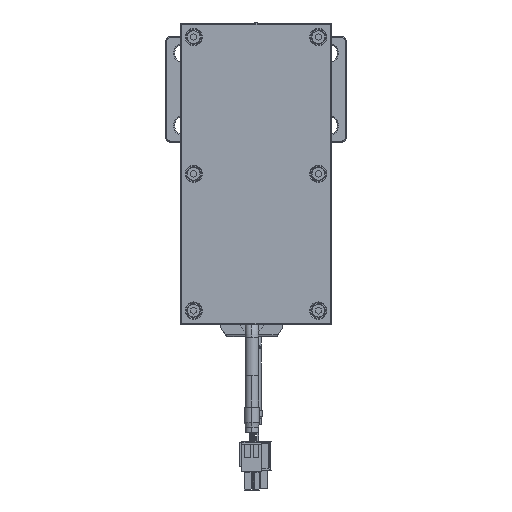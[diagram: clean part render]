
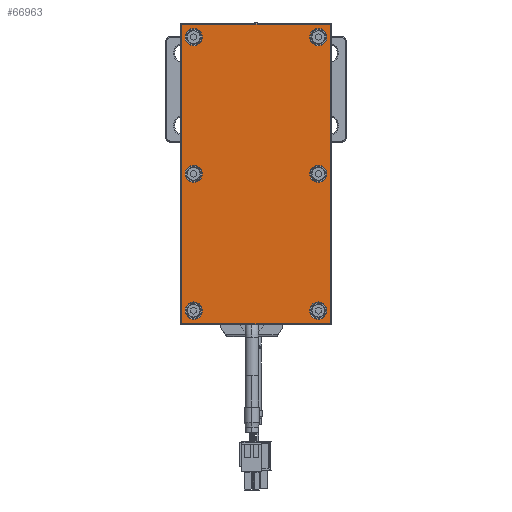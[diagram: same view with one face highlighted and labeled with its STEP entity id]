
A CAD part, front view. The second image highlights one B-rep face of the part: STEP entity #66963.
In plain terms, the highlighted planar face has unit normal (0, -1, 0).
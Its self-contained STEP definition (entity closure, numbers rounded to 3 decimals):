
#65580=CARTESIAN_POINT('',(74.,-6.,-36.5));
#65581=DIRECTION('',(0.,-1.,0.));
#65582=DIRECTION('',(0.,0.,-1.));
#65583=AXIS2_PLACEMENT_3D('',#65580,#65581,#65582);
#65585=DIRECTION('',(1.,0.,0.));
#65586=VECTOR('',#65585,148.);
#65587=CARTESIAN_POINT('',(-74.,-6.,
-37.));
#65588=LINE('',#65587,#65586);
#65589=CARTESIAN_POINT('',(-74.,-6.,-36.5));
#65590=DIRECTION('',(0.,-1.,0.));
#65591=DIRECTION('',(-1.,0.,0.));
#65592=AXIS2_PLACEMENT_3D('',#65589,#65590,#65591);
#65594=DIRECTION('',(0.,0.,-1.));
#65595=VECTOR('',#65594,73.);
#65596=CARTESIAN_POINT('',(-74.5,-6.,
36.5));
#65597=LINE('',#65596,#65595);
#65598=CARTESIAN_POINT('',(-74.,-6.,36.5));
#65599=DIRECTION('',(0.,-1.,0.));
#65600=DIRECTION('',(0.,0.,1.));
#65601=AXIS2_PLACEMENT_3D('',#65598,#65599,#65600);
#65603=DIRECTION('',(-1.,0.,0.));
#65604=VECTOR('',#65603,148.);
#65605=CARTESIAN_POINT('',(74.,-6.,
37.));
#65606=LINE('',#65605,#65604);
#65607=CARTESIAN_POINT('',(74.,-6.,36.5));
#65608=DIRECTION('',(0.,-1.,0.));
#65609=DIRECTION('',(1.,0.,0.));
#65610=AXIS2_PLACEMENT_3D('',#65607,#65608,#65609);
#65612=DIRECTION('',(0.,0.,1.));
#65613=VECTOR('',#65612,73.);
#65614=CARTESIAN_POINT('',(74.5,-6.,
-36.5));
#65615=LINE('',#65614,#65613);
#65616=CARTESIAN_POINT('',(-68.,-6.,-31.));
#65617=DIRECTION('',(0.,1.,0.));
#65618=DIRECTION('',(1.,0.,0.));
#65619=AXIS2_PLACEMENT_3D('',#65616,#65617,#65618);
#65621=CARTESIAN_POINT('',(-68.,-6.,-31.));
#65622=DIRECTION('',(0.,1.,0.));
#65623=DIRECTION('',(-1.,0.,0.));
#65624=AXIS2_PLACEMENT_3D('',#65621,#65622,#65623);
#65626=CARTESIAN_POINT('',(0.,-6.,-31.));
#65627=DIRECTION('',(0.,1.,0.));
#65628=DIRECTION('',(1.,0.,0.));
#65629=AXIS2_PLACEMENT_3D('',#65626,#65627,#65628);
#65631=CARTESIAN_POINT('',(0.,-6.,-31.));
#65632=DIRECTION('',(0.,1.,0.));
#65633=DIRECTION('',(-1.,0.,0.));
#65634=AXIS2_PLACEMENT_3D('',#65631,#65632,#65633);
#65636=CARTESIAN_POINT('',(68.,-6.,-31.));
#65637=DIRECTION('',(0.,1.,0.));
#65638=DIRECTION('',(1.,0.,0.));
#65639=AXIS2_PLACEMENT_3D('',#65636,#65637,#65638);
#65641=CARTESIAN_POINT('',(68.,-6.,-31.));
#65642=DIRECTION('',(0.,1.,0.));
#65643=DIRECTION('',(-1.,0.,0.));
#65644=AXIS2_PLACEMENT_3D('',#65641,#65642,#65643);
#65646=CARTESIAN_POINT('',(68.,-6.,31.));
#65647=DIRECTION('',(0.,1.,0.));
#65648=DIRECTION('',(1.,0.,0.));
#65649=AXIS2_PLACEMENT_3D('',#65646,#65647,#65648);
#65651=CARTESIAN_POINT('',(68.,-6.,31.));
#65652=DIRECTION('',(0.,1.,0.));
#65653=DIRECTION('',(-1.,0.,0.));
#65654=AXIS2_PLACEMENT_3D('',#65651,#65652,#65653);
#65656=CARTESIAN_POINT('',(0.,-6.,31.));
#65657=DIRECTION('',(0.,1.,0.));
#65658=DIRECTION('',(1.,0.,0.));
#65659=AXIS2_PLACEMENT_3D('',#65656,#65657,#65658);
#65661=CARTESIAN_POINT('',(0.,-6.,31.));
#65662=DIRECTION('',(0.,1.,0.));
#65663=DIRECTION('',(-1.,0.,0.));
#65664=AXIS2_PLACEMENT_3D('',#65661,#65662,#65663);
#65666=CARTESIAN_POINT('',(-68.,-6.,31.));
#65667=DIRECTION('',(0.,1.,0.));
#65668=DIRECTION('',(1.,0.,0.));
#65669=AXIS2_PLACEMENT_3D('',#65666,#65667,#65668);
#65671=CARTESIAN_POINT('',(-68.,-6.,31.));
#65672=DIRECTION('',(0.,1.,0.));
#65673=DIRECTION('',(-1.,0.,0.));
#65674=AXIS2_PLACEMENT_3D('',#65671,#65672,#65673);
#66704=CARTESIAN_POINT('',(74.,-6.,-37.));
#66705=CARTESIAN_POINT('',(74.5,-6.,-36.5));
#66706=VERTEX_POINT('',#66704);
#66707=VERTEX_POINT('',#66705);
#66712=CARTESIAN_POINT('',(74.5,-6.,
36.5));
#66713=VERTEX_POINT('',#66712);
#66716=CARTESIAN_POINT('',(74.,-6.,37.));
#66717=VERTEX_POINT('',#66716);
#66720=CARTESIAN_POINT('',(-74.,-6.,
37.));
#66721=VERTEX_POINT('',#66720);
#66724=CARTESIAN_POINT('',(-74.5,-6.,36.5));
#66725=VERTEX_POINT('',#66724);
#66728=CARTESIAN_POINT('',(-74.5,-6.,
-36.5));
#66729=VERTEX_POINT('',#66728);
#66732=CARTESIAN_POINT('',(-74.,-6.,-37.));
#66733=VERTEX_POINT('',#66732);
#66760=CARTESIAN_POINT('',(-63.7,-6.,-31.));
#66761=CARTESIAN_POINT('',(-72.3,-6.,-31.));
#66762=VERTEX_POINT('',#66760);
#66763=VERTEX_POINT('',#66761);
#66776=CARTESIAN_POINT('',(4.3,-6.,-31.));
#66777=CARTESIAN_POINT('',(-4.3,-6.,-31.));
#66778=VERTEX_POINT('',#66776);
#66779=VERTEX_POINT('',#66777);
#66800=CARTESIAN_POINT('',(72.3,-6.,-31.));
#66801=CARTESIAN_POINT('',(63.7,-6.,-31.));
#66802=VERTEX_POINT('',#66800);
#66803=VERTEX_POINT('',#66801);
#66816=CARTESIAN_POINT('',(72.3,-6.,31.));
#66817=CARTESIAN_POINT('',(63.7,-6.,31.));
#66818=VERTEX_POINT('',#66816);
#66819=VERTEX_POINT('',#66817);
#66824=CARTESIAN_POINT('',(4.3,-6.,31.));
#66825=CARTESIAN_POINT('',(-4.3,-6.,31.));
#66826=VERTEX_POINT('',#66824);
#66827=VERTEX_POINT('',#66825);
#66848=CARTESIAN_POINT('',(-63.7,-6.,31.));
#66849=CARTESIAN_POINT('',(-72.3,-6.,31.));
#66850=VERTEX_POINT('',#66848);
#66851=VERTEX_POINT('',#66849);
#66904=CARTESIAN_POINT('',(0.,-6.,0.));
#66905=DIRECTION('',(0.,1.,0.));
#66906=DIRECTION('',(1.,0.,0.));
#66907=AXIS2_PLACEMENT_3D('',#66904,#66905,#66906);
#66908=PLANE('',#66907);
#66910=ORIENTED_EDGE('',*,*,#66909,.F.);
#66912=ORIENTED_EDGE('',*,*,#66911,.F.);
#66914=ORIENTED_EDGE('',*,*,#66913,.F.);
#66916=ORIENTED_EDGE('',*,*,#66915,.F.);
#66918=ORIENTED_EDGE('',*,*,#66917,.F.);
#66920=ORIENTED_EDGE('',*,*,#66919,.F.);
#66922=ORIENTED_EDGE('',*,*,#66921,.F.);
#66924=ORIENTED_EDGE('',*,*,#66923,.F.);
#66925=EDGE_LOOP('',(#66910,#66912,#66914,#66916,#66918,#66920,#66922,#66924));
#66926=FACE_OUTER_BOUND('',#66925,.F.);
#66928=ORIENTED_EDGE('',*,*,#66927,.F.);
#66930=ORIENTED_EDGE('',*,*,#66929,.F.);
#66931=EDGE_LOOP('',(#66928,#66930));
#66932=FACE_BOUND('',#66931,.F.);
#66934=ORIENTED_EDGE('',*,*,#66933,.F.);
#66936=ORIENTED_EDGE('',*,*,#66935,.F.);
#66937=EDGE_LOOP('',(#66934,#66936));
#66938=FACE_BOUND('',#66937,.F.);
#66940=ORIENTED_EDGE('',*,*,#66939,.F.);
#66942=ORIENTED_EDGE('',*,*,#66941,.F.);
#66943=EDGE_LOOP('',(#66940,#66942));
#66944=FACE_BOUND('',#66943,.F.);
#66946=ORIENTED_EDGE('',*,*,#66945,.F.);
#66948=ORIENTED_EDGE('',*,*,#66947,.F.);
#66949=EDGE_LOOP('',(#66946,#66948));
#66950=FACE_BOUND('',#66949,.F.);
#66952=ORIENTED_EDGE('',*,*,#66951,.F.);
#66954=ORIENTED_EDGE('',*,*,#66953,.F.);
#66955=EDGE_LOOP('',(#66952,#66954));
#66956=FACE_BOUND('',#66955,.F.);
#66958=ORIENTED_EDGE('',*,*,#66957,.F.);
#66960=ORIENTED_EDGE('',*,*,#66959,.F.);
#66961=EDGE_LOOP('',(#66958,#66960));
#66962=FACE_BOUND('',#66961,.F.);
#66963=ADVANCED_FACE('',(#66926,#66932,#66938,#66944,#66950,#66956,#66962),
#66908,.F.);
#65584=CIRCLE('',#65583,0.5);
#65593=CIRCLE('',#65592,0.5);
#65602=CIRCLE('',#65601,0.5);
#65611=CIRCLE('',#65610,0.5);
#65620=CIRCLE('',#65619,4.3);
#65625=CIRCLE('',#65624,4.3);
#65630=CIRCLE('',#65629,4.3);
#65635=CIRCLE('',#65634,4.3);
#65640=CIRCLE('',#65639,4.3);
#65645=CIRCLE('',#65644,4.3);
#65650=CIRCLE('',#65649,4.3);
#65655=CIRCLE('',#65654,4.3);
#65660=CIRCLE('',#65659,4.3);
#65665=CIRCLE('',#65664,4.3);
#65670=CIRCLE('',#65669,4.3);
#65675=CIRCLE('',#65674,4.3);
#66909=EDGE_CURVE('',#66706,#66707,#65584,.T.);
#66911=EDGE_CURVE('',#66733,#66706,#65588,.T.);
#66913=EDGE_CURVE('',#66729,#66733,#65593,.T.);
#66915=EDGE_CURVE('',#66725,#66729,#65597,.T.);
#66917=EDGE_CURVE('',#66721,#66725,#65602,.T.);
#66919=EDGE_CURVE('',#66717,#66721,#65606,.T.);
#66921=EDGE_CURVE('',#66713,#66717,#65611,.T.);
#66923=EDGE_CURVE('',#66707,#66713,#65615,.T.);
#66927=EDGE_CURVE('',#66762,#66763,#65620,.T.);
#66929=EDGE_CURVE('',#66763,#66762,#65625,.T.);
#66933=EDGE_CURVE('',#66778,#66779,#65630,.T.);
#66935=EDGE_CURVE('',#66779,#66778,#65635,.T.);
#66939=EDGE_CURVE('',#66802,#66803,#65640,.T.);
#66941=EDGE_CURVE('',#66803,#66802,#65645,.T.);
#66945=EDGE_CURVE('',#66818,#66819,#65650,.T.);
#66947=EDGE_CURVE('',#66819,#66818,#65655,.T.);
#66951=EDGE_CURVE('',#66826,#66827,#65660,.T.);
#66953=EDGE_CURVE('',#66827,#66826,#65665,.T.);
#66957=EDGE_CURVE('',#66850,#66851,#65670,.T.);
#66959=EDGE_CURVE('',#66851,#66850,#65675,.T.);
